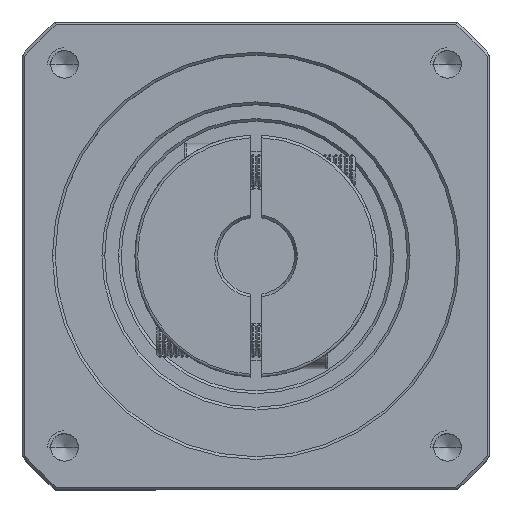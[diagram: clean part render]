
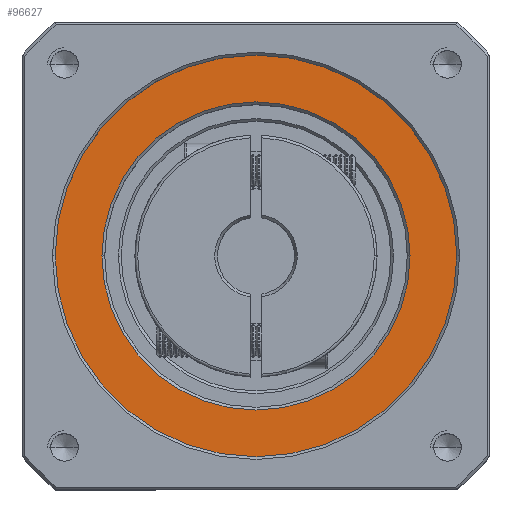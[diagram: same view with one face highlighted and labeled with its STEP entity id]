
A CAD part, top view. The second image highlights one B-rep face of the part: STEP entity #96627.
In plain terms, the highlighted planar face has unit normal (0, 0, 1).
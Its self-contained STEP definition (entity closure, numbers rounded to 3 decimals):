
#3356 = CARTESIAN_POINT ( 'NONE',  ( -95.807, 41.931, 45.967 ) ) ;
#6745 = VERTEX_POINT ( 'NONE', #28217 ) ;
#13258 = DIRECTION ( 'NONE',  ( 1., 0., 0. ) ) ;
#13815 = EDGE_CURVE ( 'NONE', #85953, #30647, #96336, .T. ) ;
#14690 = CIRCLE ( 'NONE', #63283, 36.5 ) ;
#17270 = CARTESIAN_POINT ( 'NONE',  ( -67.807, 41.931, 45.967 ) ) ;
#18950 = FACE_OUTER_BOUND ( 'NONE', #103969, .T. ) ;
#24639 = DIRECTION ( 'NONE',  ( 0., 0., 1. ) ) ;
#26690 = CIRCLE ( 'NONE', #48382, 36.5 ) ;
#26917 = DIRECTION ( 'NONE',  ( 0., 0., -1. ) ) ;
#28217 = CARTESIAN_POINT ( 'NONE',  ( -59.307, 41.931, 45.967 ) ) ;
#30647 = VERTEX_POINT ( 'NONE', #17270 ) ;
#34106 = PLANE ( 'NONE',  #111061 ) ;
#34259 = DIRECTION ( 'NONE',  ( 0., 0., -1. ) ) ;
#40165 = CARTESIAN_POINT ( 'NONE',  ( -132.307, 41.931, 45.967 ) ) ;
#45118 = FACE_BOUND ( 'NONE', #88282, .T. ) ;
#48382 = AXIS2_PLACEMENT_3D ( 'NONE', #51121, #119899, #60980 ) ;
#49846 = CARTESIAN_POINT ( 'NONE',  ( -123.807, 41.931, 45.967 ) ) ;
#51121 = CARTESIAN_POINT ( 'NONE',  ( -95.807, 41.931, 45.967 ) ) ;
#57069 = AXIS2_PLACEMENT_3D ( 'NONE', #93190, #34259, #103079 ) ;
#60980 = DIRECTION ( 'NONE',  ( 1., 0., 0. ) ) ;
#63283 = AXIS2_PLACEMENT_3D ( 'NONE', #3356, #72122, #13258 ) ;
#67958 = ORIENTED_EDGE ( 'NONE', *, *, #89740, .T. ) ;
#72122 = DIRECTION ( 'NONE',  ( 0., 0., 1. ) ) ;
#72688 = ORIENTED_EDGE ( 'NONE', *, *, #13815, .T. ) ;
#74332 = ORIENTED_EDGE ( 'NONE', *, *, #116319, .T. ) ;
#80922 = ORIENTED_EDGE ( 'NONE', *, *, #126366, .T. ) ;
#83566 = CARTESIAN_POINT ( 'NONE',  ( -95.807, 41.931, 45.967 ) ) ;
#85860 = CARTESIAN_POINT ( 'NONE',  ( -95.807, 41.931, 45.967 ) ) ;
#85953 = VERTEX_POINT ( 'NONE', #49846 ) ;
#88282 = EDGE_LOOP ( 'NONE', ( #74332, #72688 ) ) ;
#89740 = EDGE_CURVE ( 'NONE', #6745, #115199, #26690, .T. ) ;
#93190 = CARTESIAN_POINT ( 'NONE',  ( -95.807, 41.931, 45.967 ) ) ;
#93457 = DIRECTION ( 'NONE',  ( 1., 0., 0. ) ) ;
#95724 = DIRECTION ( 'NONE',  ( 1., 0., 0. ) ) ;
#96336 = CIRCLE ( 'NONE', #104677, 28. ) ;
#96627 = ADVANCED_FACE ( 'NONE', ( #18950, #45118 ), #34106, .T. ) ;
#103079 = DIRECTION ( 'NONE',  ( 1., 0., 0. ) ) ;
#103969 = EDGE_LOOP ( 'NONE', ( #67958, #80922 ) ) ;
#104677 = AXIS2_PLACEMENT_3D ( 'NONE', #85860, #26917, #95724 ) ;
#111061 = AXIS2_PLACEMENT_3D ( 'NONE', #83566, #24639, #93457 ) ;
#115199 = VERTEX_POINT ( 'NONE', #40165 ) ;
#116319 = EDGE_CURVE ( 'NONE', #30647, #85953, #126503, .T. ) ;
#119899 = DIRECTION ( 'NONE',  ( 0., 0., 1. ) ) ;
#126366 = EDGE_CURVE ( 'NONE', #115199, #6745, #14690, .T. ) ;
#126503 = CIRCLE ( 'NONE', #57069, 28. ) ;
